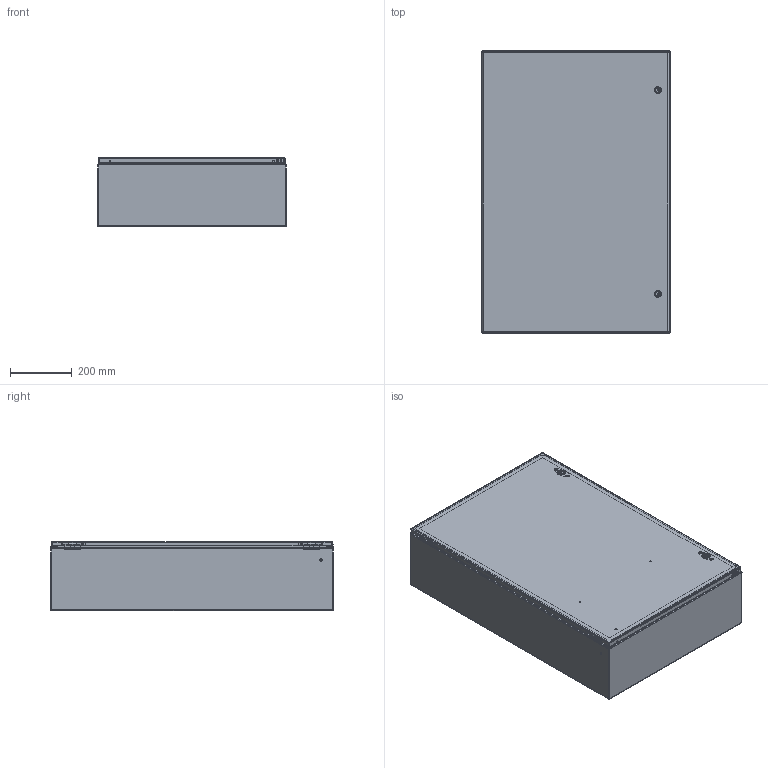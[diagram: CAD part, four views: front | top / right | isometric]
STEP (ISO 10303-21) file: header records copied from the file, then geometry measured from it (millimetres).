
FILE_DESCRIPTION (( 'STEP AP203' ), '1' );
FILE_NAME ('csd36248.STEP', '2012-05-21T21:13:57', ( 'User' ), ( 'Pentair Inc' ), 'SwSTEP 2.0', 'SolidWorks 2010', '' );
FILE_SCHEMA (( 'CONFIG_CONTROL_DESIGN' ));
Products named in the file (27): 87937943_assy; 87937983_weldment; 87936142; 99401225; 87931362_87931362; 64101001; 64201001; 87541994_Installed Height; 87541995; 64202001; 64210001; 64203001; 87927840_87927840; 87932903; 64138001; 87938009; 87543027; 89076399; 89076193; 89056623; 87929507; 87929767; 87929769_Installed on Pin; csd36248; 87950940; 87755765_default; 23271001_After Weld
Assembly tree (45 placements, depth 4):
  csd36248
    87929507  x2
      87929767
      87929769_Installed on Pin
    87543027  x2
    89076399  x2
      89056623
      89076193
    87950940
      23271001_After Weld  x6
      99401225
      87755765_default
    87937943_assy
      87938009
      87932903  x4
      64101001  x2
        64210001
        87927840_87927840
        87541994_Installed Height
        87541995
        64203001
        64201001
        64202001
      64138001  x2
      87937983_weldment
        99401225
        87936142
        87931362_87931362  x6
Bounding box: 609.6 x 914.7 x 223.9 mm (x, y, z)
Volume: 3099463 mm3; surface area: 3887278.9 mm2
Topology: 49 solids, 49 shells, 2375 faces, 5838 edges, 3520 vertices
Faces by surface type: plane 859, cylinder 716, bspline 512, cone 140, torus 140, sphere 8
Entity records: 46737 total; most frequent: CARTESIAN_POINT 16357, ORIENTED_EDGE 5918, DIRECTION 5189, EDGE_CURVE 2959, AXIS2_PLACEMENT_3D 1862, VERTEX_POINT 1814, VECTOR 1465, LINE 1465
